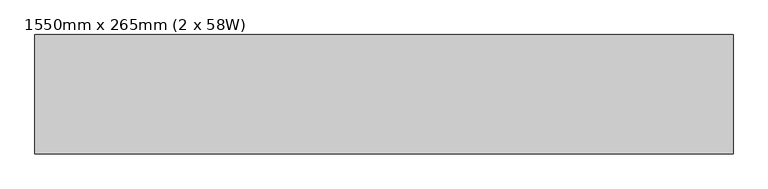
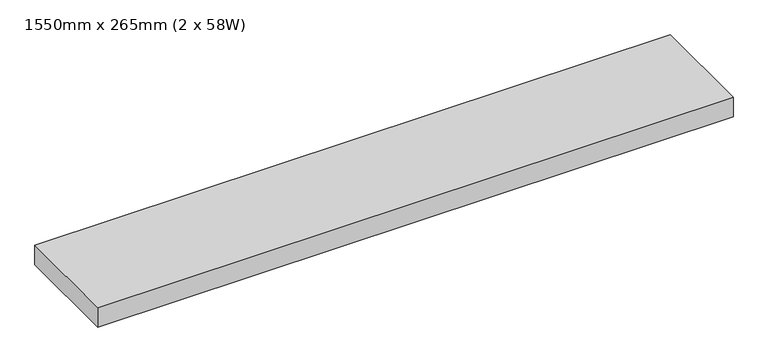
"""IFC4 building model written with IfcOpenShell, lengths in millimetres: light fixture geometry, Lighting_Ceiling-Mounted_Zeppelin-Rental-GmbH : 1550mm x 265mm (2 x 58W)."""

from ifc_helpers import new_model, si_unit, origin, origin_with_axes, place, context, project, spatial, polyline, outline, extrude, source, transform, mapped, element, save


def light_fixture_1550mm_x_265mm_2_x_58w_f319c43d(model_context):
    return source(origin(), model_context, "Body", "SweptSolid", [
        extrude(outline(polyline([(775.0, 132.5), (775.0, -132.5), (-775.0, -132.5), (-775.0, 132.5), (775.0, 132.5)])), origin_with_axes(), (0.0, 0.0, 1.0), 50.0),
    ])


if __name__ == "__main__":
    model = new_model("IFC4")
    model_context = context("Model", 3, world=origin())
    ifc_project = project(units=[si_unit("LENGTHUNIT", "METRE", prefix="MILLI")], contexts=[model_context])
    site = spatial("IfcSite", under=ifc_project)
    building = spatial("IfcBuilding", under=site)
    placement = place(None, origin())
    light_fixture_1550mm_x_265mm_2_x_58w_shape = light_fixture_1550mm_x_265mm_2_x_58w_f319c43d(model_context)
    element("IfcLightFixture", 1, ObjectType="Lighting_Ceiling-Mounted_Zeppelin-Rental-GmbH : 1550mm x 265mm (2 x 58W)", at=placement, inside=building, context=model_context, shape_type="MappedRepresentation", body=[
        mapped(light_fixture_1550mm_x_265mm_2_x_58w_shape, transform((0.0, 0.0, 0.0), x_axis=(1.0, 0.0, 0.0), y_axis=(0.0, 1.0, 0.0), z_axis=(0.0, 0.0, 1.0))),
    ])
    save(model, "model.ifc")
